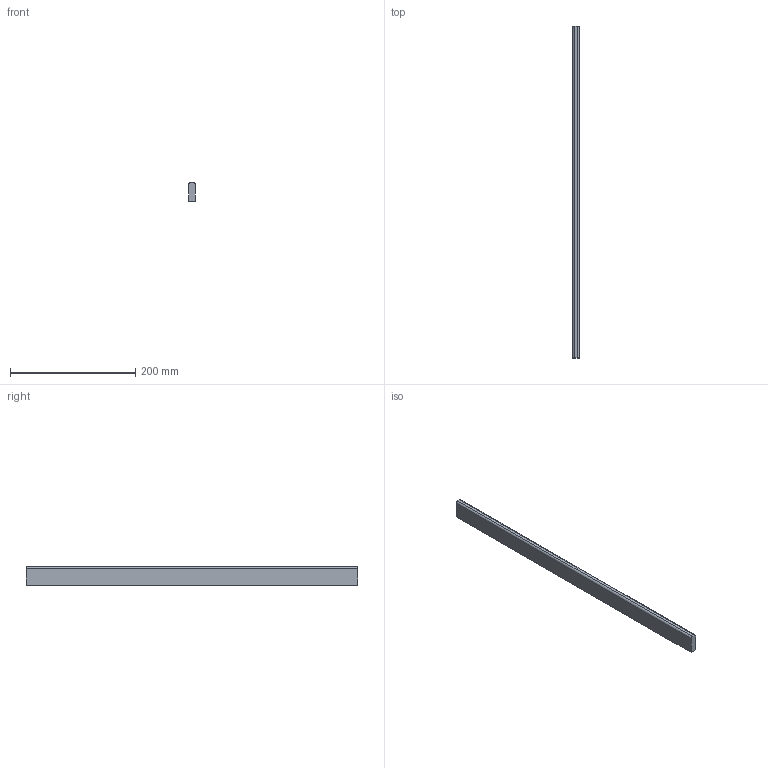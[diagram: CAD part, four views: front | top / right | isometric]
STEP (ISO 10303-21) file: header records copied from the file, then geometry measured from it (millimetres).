
FILE_DESCRIPTION (( 'STEP AP214' ), '1' );
FILE_NAME ('_Seitenreling_SP60701200_RL530.step', '2010-09-06T14:51:41', ( 'grass' ), ( '' ), 'SwSTEP 2.0', 'SolidWorks 2010', '' );
FILE_SCHEMA (( 'AUTOMOTIVE_DESIGN' ));
Length unit declared in the file: millimetre
Products named in the file (1): _Seitenreling_SP60701200_RL530
Bounding box: 10.5 x 530 x 30 mm (x, y, z)
Volume: 164902.7 mm3; surface area: 42187.4 mm2
Topology: 1 solids, 1 shells, 8 faces, 18 edges, 12 vertices
Faces by surface type: plane 6, cylinder 2
Entity records: 260 total; most frequent: DIRECTION 40, CARTESIAN_POINT 39, ORIENTED_EDGE 36, EDGE_CURVE 18, LINE 14, VECTOR 14, AXIS2_PLACEMENT_3D 13, VERTEX_POINT 12
